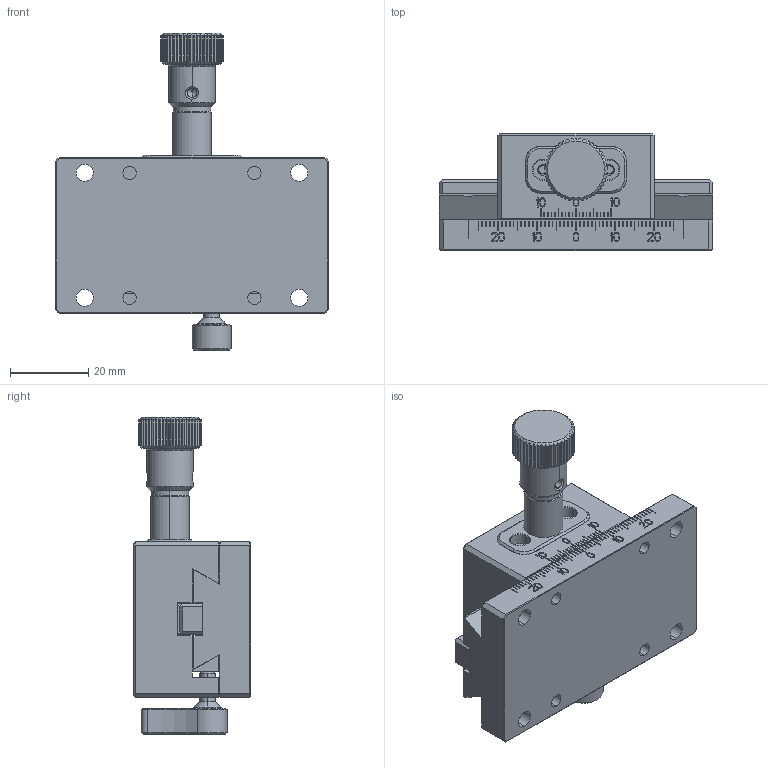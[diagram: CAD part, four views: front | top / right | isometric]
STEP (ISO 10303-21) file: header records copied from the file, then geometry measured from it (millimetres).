
FILE_DESCRIPTION((''),'2;1');
FILE_NAME('ASSY-40-ST50_ASM','2021-12-22T11:26:55',('windows10'),(''),'CREO PARAMETRIC BY PTC INC, 2018260','CREO PARAMETRIC BY PTC INC, 2018260','');
FILE_SCHEMA(('CONFIG_CONTROL_DESIGN'));
Length unit declared in the file: millimetre
Products named in the file (13): BOTTOM-40-70-M; RACK-8-6-70; TOP-40-40-F-NEW; HOLDER-PINION-16D3; PINION-4-41; WHASHER-9D6-4D1-1D2; HANDLE-16-19; ASSY-HANDLE-16-51D8_ASM; ASSY-TOP-40-40-F_ASM; STOPPER-A-NEW; LEVER-NEW; ASSY-STOPPER-NEW_ASM; ASSY-40-ST50_ASM
Assembly tree (12 placements, depth 4):
  ASSY-40-ST50_ASM
    BOTTOM-40-70-M
    RACK-8-6-70
    ASSY-TOP-40-40-F_ASM
      TOP-40-40-F-NEW
      ASSY-HANDLE-16-51D8_ASM
        HOLDER-PINION-16D3
        PINION-4-41
        WHASHER-9D6-4D1-1D2
        HANDLE-16-19
    ASSY-STOPPER-NEW_ASM
      STOPPER-A-NEW
      LEVER-NEW
Bounding box: 70 x 30 x 81.37 mm (x, y, z)
Volume: 63359 mm3; surface area: 26988.4 mm2
Topology: 9 solids, 9 shells, 1443 faces, 3738 edges, 2430 vertices
Faces by surface type: plane 1098, cylinder 213, cone 122, torus 6, bspline 4
Entity records: 44708 total; most frequent: CARTESIAN_POINT 9031, ORIENTED_EDGE 7464, DIRECTION 6994, EDGE_CURVE 3732, VECTOR 2950, LINE 2950, VERTEX_POINT 2430, AXIS2_PLACEMENT_3D 2022
